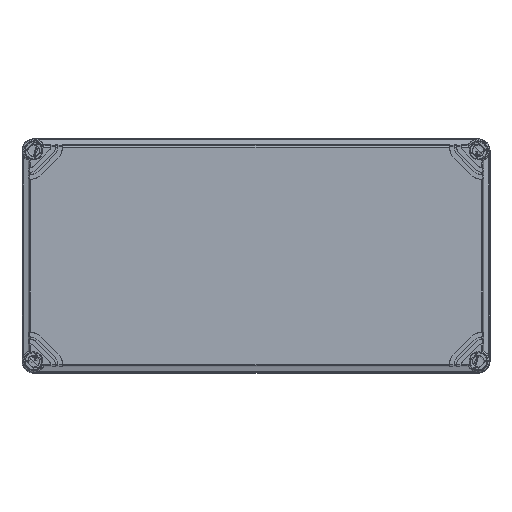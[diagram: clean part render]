
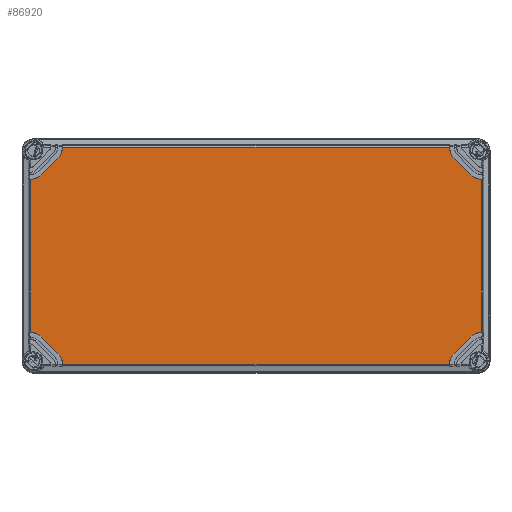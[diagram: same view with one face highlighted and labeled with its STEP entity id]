
A CAD part, top view. The second image highlights one B-rep face of the part: STEP entity #86920.
In plain terms, the highlighted planar face has unit normal (0, 0, 1).
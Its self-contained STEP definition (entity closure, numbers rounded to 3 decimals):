
#1545 = VERTEX_POINT ( 'NONE', #131874 ) ;
#1898 = EDGE_CURVE ( 'NONE', #100126, #77803, #163170, .T. ) ;
#2691 = EDGE_CURVE ( 'NONE', #28696, #148146, #116106, .T. ) ;
#3114 = DIRECTION ( 'NONE',  ( 1., 0., 0. ) ) ;
#3341 = VECTOR ( 'NONE', #158735, 1000. ) ;
#3948 = ORIENTED_EDGE ( 'NONE', *, *, #102812, .T. ) ;
#4467 = ORIENTED_EDGE ( 'NONE', *, *, #1898, .T. ) ;
#4901 = ORIENTED_EDGE ( 'NONE', *, *, #108749, .T. ) ;
#5924 = CIRCLE ( 'NONE', #69981, 14. ) ;
#8870 = DIRECTION ( 'NONE',  ( 0., 0., -1. ) ) ;
#8893 = EDGE_CURVE ( 'NONE', #65156, #27716, #133484, .T. ) ;
#10780 = CIRCLE ( 'NONE', #15342, 14. ) ;
#12442 = CARTESIAN_POINT ( 'NONE',  ( 165.353, -92.851, 30. ) ) ;
#13258 = DIRECTION ( 'NONE',  ( 0.707, -0.707, 0. ) ) ;
#13299 = DIRECTION ( 'NONE',  ( 0., 0., -1. ) ) ;
#13595 = AXIS2_PLACEMENT_3D ( 'NONE', #64053, #155157, #77102 ) ;
#15342 = AXIS2_PLACEMENT_3D ( 'NONE', #86721, #8870, #99807 ) ;
#15552 = AXIS2_PLACEMENT_3D ( 'NONE', #18099, #109031, #31208 ) ;
#15887 = EDGE_CURVE ( 'NONE', #148146, #97975, #139139, .T. ) ;
#18099 = CARTESIAN_POINT ( 'NONE',  ( 193.3, -79.346, 30. ) ) ;
#20854 = DIRECTION ( 'NONE',  ( -0.707, -0.707, 0. ) ) ;
#21744 = VERTEX_POINT ( 'NONE', #136516 ) ;
#21871 = CARTESIAN_POINT ( 'NONE',  ( 0., 0., 30. ) ) ;
#22745 = DIRECTION ( 'NONE',  ( -0.707, 0.707, 0. ) ) ;
#25530 = ORIENTED_EDGE ( 'NONE', *, *, #8893, .T. ) ;
#27570 = CARTESIAN_POINT ( 'NONE',  ( -165.353, 92.851, 30. ) ) ;
#27716 = VERTEX_POINT ( 'NONE', #154239 ) ;
#28696 = VERTEX_POINT ( 'NONE', #78621 ) ;
#29035 = CARTESIAN_POINT ( 'NONE',  ( -169.447, -83.401, 30. ) ) ;
#31208 = DIRECTION ( 'NONE',  ( 1., 0., 0. ) ) ;
#32346 = EDGE_CURVE ( 'NONE', #97975, #75059, #106659, .T. ) ;
#32596 = EDGE_CURVE ( 'NONE', #33674, #133860, #58070, .T. ) ;
#33674 = VERTEX_POINT ( 'NONE', #133377 ) ;
#33936 = CARTESIAN_POINT ( 'NONE',  ( -169.447, 83.401, 30. ) ) ;
#35465 = FACE_OUTER_BOUND ( 'NONE', #41512, .T. ) ;
#35824 = VECTOR ( 'NONE', #154397, 1000. ) ;
#38044 = LINE ( 'NONE', #119454, #3341 ) ;
#39649 = EDGE_CURVE ( 'NONE', #150748, #21744, #41876, .T. ) ;
#41512 = EDGE_LOOP ( 'NONE', ( #25530, #137288, #62722, #58517, #78246, #3948, #75135, #55736, #86351, #55172, #73541, #4467, #4901, #145300, #74328, #105136 ) ) ;
#41876 = CIRCLE ( 'NONE', #15552, 14. ) ;
#43451 = CARTESIAN_POINT ( 'NONE',  ( 165.353, 92.851, 30. ) ) ;
#43652 = CARTESIAN_POINT ( 'NONE',  ( 183.401, -69.447, 30. ) ) ;
#47206 = CARTESIAN_POINT ( 'NONE',  ( 183.401, 69.447, 30. ) ) ;
#47961 = CARTESIAN_POINT ( 'NONE',  ( 169.447, -83.401, 30. ) ) ;
#48018 = PLANE ( 'NONE',  #143285 ) ;
#49079 = DIRECTION ( 'NONE',  ( 0.707, 0.707, 0. ) ) ;
#49542 = LINE ( 'NONE', #91080, #110502 ) ;
#50169 = CARTESIAN_POINT ( 'NONE',  ( -179.346, 93.3, 30. ) ) ;
#50995 = CARTESIAN_POINT ( 'NONE',  ( 192.851, 65.353, 30. ) ) ;
#51643 = CARTESIAN_POINT ( 'NONE',  ( 0., -92.851, 30. ) ) ;
#55172 = ORIENTED_EDGE ( 'NONE', *, *, #32346, .T. ) ;
#55736 = ORIENTED_EDGE ( 'NONE', *, *, #2691, .T. ) ;
#56567 = CARTESIAN_POINT ( 'NONE',  ( 169.447, -83.401, 30. ) ) ;
#58070 = LINE ( 'NONE', #160061, #153832 ) ;
#58517 = ORIENTED_EDGE ( 'NONE', *, *, #96045, .T. ) ;
#61029 = DIRECTION ( 'NONE',  ( 1., 0., 0. ) ) ;
#62722 = ORIENTED_EDGE ( 'NONE', *, *, #157723, .T. ) ;
#63213 = DIRECTION ( 'NONE',  ( 1., 0., 0. ) ) ;
#63447 = DIRECTION ( 'NONE',  ( 0., 0., -1. ) ) ;
#64053 = CARTESIAN_POINT ( 'NONE',  ( 179.346, -93.3, 30. ) ) ;
#64612 = AXIS2_PLACEMENT_3D ( 'NONE', #91118, #13299, #104243 ) ;
#65156 = VERTEX_POINT ( 'NONE', #29035 ) ;
#65838 = DIRECTION ( 'NONE',  ( 1., 0., 0. ) ) ;
#69981 = AXIS2_PLACEMENT_3D ( 'NONE', #141455, #63447, #154540 ) ;
#72053 = DIRECTION ( 'NONE',  ( 0., 0., -1. ) ) ;
#73541 = ORIENTED_EDGE ( 'NONE', *, *, #78155, .T. ) ;
#74328 = ORIENTED_EDGE ( 'NONE', *, *, #80581, .T. ) ;
#75059 = VERTEX_POINT ( 'NONE', #27570 ) ;
#75135 = ORIENTED_EDGE ( 'NONE', *, *, #152013, .T. ) ;
#76390 = EDGE_CURVE ( 'NONE', #1545, #65156, #49542, .T. ) ;
#77102 = DIRECTION ( 'NONE',  ( 1., 0., 0. ) ) ;
#77803 = VERTEX_POINT ( 'NONE', #135047 ) ;
#78155 = EDGE_CURVE ( 'NONE', #75059, #100126, #107568, .T. ) ;
#78246 = ORIENTED_EDGE ( 'NONE', *, *, #39649, .T. ) ;
#78621 = CARTESIAN_POINT ( 'NONE',  ( 183.401, 69.447, 30. ) ) ;
#80581 = EDGE_CURVE ( 'NONE', #133860, #1545, #141834, .T. ) ;
#80997 = DIRECTION ( 'NONE',  ( 0., 0., -1. ) ) ;
#84750 = AXIS2_PLACEMENT_3D ( 'NONE', #150095, #72053, #163175 ) ;
#85700 = CARTESIAN_POINT ( 'NONE',  ( -169.447, 83.401, 30. ) ) ;
#86351 = ORIENTED_EDGE ( 'NONE', *, *, #15887, .T. ) ;
#86721 = CARTESIAN_POINT ( 'NONE',  ( 193.3, 79.346, 30. ) ) ;
#86920 = ADVANCED_FACE ( 'NONE', ( #35465 ), #48018, .T. ) ;
#91080 = CARTESIAN_POINT ( 'NONE',  ( -183.401, -69.447, 30. ) ) ;
#91118 = CARTESIAN_POINT ( 'NONE',  ( 179.346, 93.3, 30. ) ) ;
#92751 = EDGE_CURVE ( 'NONE', #27716, #96538, #164558, .T. ) ;
#93742 = VERTEX_POINT ( 'NONE', #56567 ) ;
#96045 = EDGE_CURVE ( 'NONE', #93742, #150748, #145235, .T. ) ;
#96538 = VERTEX_POINT ( 'NONE', #12442 ) ;
#97975 = VERTEX_POINT ( 'NONE', #43451 ) ;
#99051 = AXIS2_PLACEMENT_3D ( 'NONE', #159048, #80997, #3114 ) ;
#99302 = VECTOR ( 'NONE', #65838, 1000. ) ;
#99807 = DIRECTION ( 'NONE',  ( 1., 0., 0. ) ) ;
#100126 = VERTEX_POINT ( 'NONE', #85700 ) ;
#101947 = CARTESIAN_POINT ( 'NONE',  ( 0., 92.851, 30. ) ) ;
#102812 = EDGE_CURVE ( 'NONE', #21744, #140699, #38044, .T. ) ;
#104243 = DIRECTION ( 'NONE',  ( 1., 0., 0. ) ) ;
#105136 = ORIENTED_EDGE ( 'NONE', *, *, #76390, .T. ) ;
#106659 = LINE ( 'NONE', #101947, #35824 ) ;
#107568 = CIRCLE ( 'NONE', #139310, 14. ) ;
#108749 = EDGE_CURVE ( 'NONE', #77803, #33674, #5924, .T. ) ;
#109031 = DIRECTION ( 'NONE',  ( 0., 0., -1. ) ) ;
#110502 = VECTOR ( 'NONE', #13258, 1000. ) ;
#110539 = VECTOR ( 'NONE', #49079, 1000. ) ;
#116106 = LINE ( 'NONE', #47206, #150780 ) ;
#119454 = CARTESIAN_POINT ( 'NONE',  ( 192.851, 0., 30. ) ) ;
#120356 = VECTOR ( 'NONE', #20854, 1000. ) ;
#131874 = CARTESIAN_POINT ( 'NONE',  ( -183.401, -69.447, 30. ) ) ;
#133377 = CARTESIAN_POINT ( 'NONE',  ( -192.851, 65.353, 30. ) ) ;
#133484 = CIRCLE ( 'NONE', #84750, 14. ) ;
#133860 = VERTEX_POINT ( 'NONE', #158982 ) ;
#135047 = CARTESIAN_POINT ( 'NONE',  ( -183.401, 69.447, 30. ) ) ;
#136516 = CARTESIAN_POINT ( 'NONE',  ( 192.851, -65.353, 30. ) ) ;
#137288 = ORIENTED_EDGE ( 'NONE', *, *, #92751, .T. ) ;
#139064 = DIRECTION ( 'NONE',  ( 0., 0., 1. ) ) ;
#139139 = CIRCLE ( 'NONE', #64612, 14. ) ;
#139310 = AXIS2_PLACEMENT_3D ( 'NONE', #50169, #141229, #63213 ) ;
#140699 = VERTEX_POINT ( 'NONE', #50995 ) ;
#141229 = DIRECTION ( 'NONE',  ( 0., 0., -1. ) ) ;
#141455 = CARTESIAN_POINT ( 'NONE',  ( -193.3, 79.346, 30. ) ) ;
#141834 = CIRCLE ( 'NONE', #99051, 14. ) ;
#143285 = AXIS2_PLACEMENT_3D ( 'NONE', #21871, #139064, #61029 ) ;
#145235 = LINE ( 'NONE', #47961, #110539 ) ;
#145300 = ORIENTED_EDGE ( 'NONE', *, *, #32596, .T. ) ;
#147535 = DIRECTION ( 'NONE',  ( 0., -1., 0. ) ) ;
#148146 = VERTEX_POINT ( 'NONE', #159642 ) ;
#150095 = CARTESIAN_POINT ( 'NONE',  ( -179.346, -93.3, 30. ) ) ;
#150748 = VERTEX_POINT ( 'NONE', #43652 ) ;
#150780 = VECTOR ( 'NONE', #22745, 1000. ) ;
#152013 = EDGE_CURVE ( 'NONE', #140699, #28696, #10780, .T. ) ;
#153832 = VECTOR ( 'NONE', #147535, 1000. ) ;
#154239 = CARTESIAN_POINT ( 'NONE',  ( -165.353, -92.851, 30. ) ) ;
#154397 = DIRECTION ( 'NONE',  ( -1., 0., 0. ) ) ;
#154540 = DIRECTION ( 'NONE',  ( 1., 0., 0. ) ) ;
#155157 = DIRECTION ( 'NONE',  ( 0., 0., -1. ) ) ;
#157723 = EDGE_CURVE ( 'NONE', #96538, #93742, #164590, .T. ) ;
#158735 = DIRECTION ( 'NONE',  ( 0., 1., 0. ) ) ;
#158982 = CARTESIAN_POINT ( 'NONE',  ( -192.851, -65.353, 30. ) ) ;
#159048 = CARTESIAN_POINT ( 'NONE',  ( -193.3, -79.346, 30. ) ) ;
#159642 = CARTESIAN_POINT ( 'NONE',  ( 169.447, 83.401, 30. ) ) ;
#160061 = CARTESIAN_POINT ( 'NONE',  ( -192.851, 0., 30. ) ) ;
#163170 = LINE ( 'NONE', #33936, #120356 ) ;
#163175 = DIRECTION ( 'NONE',  ( 1., 0., 0. ) ) ;
#164558 = LINE ( 'NONE', #51643, #99302 ) ;
#164590 = CIRCLE ( 'NONE', #13595, 14. ) ;
